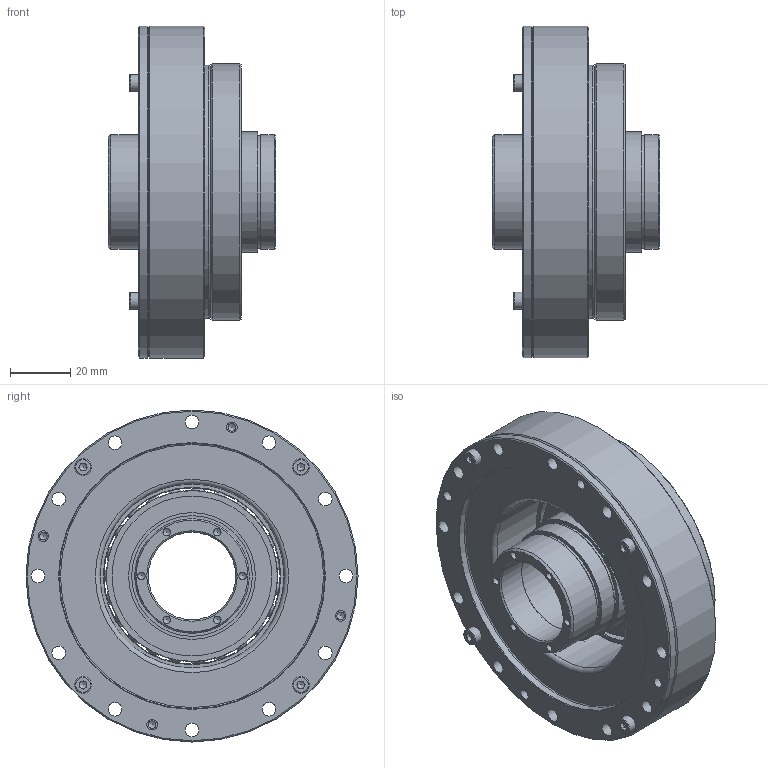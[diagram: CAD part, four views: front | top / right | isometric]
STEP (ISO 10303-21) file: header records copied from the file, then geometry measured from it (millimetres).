
FILE_DESCRIPTION (( 'STEP AP203' ), '1' );
FILE_NAME ('LHSG-25-XXX-C-III-ST-D2.STEP', '2025-07-15T06:01:01', ( '' ), ( '' ), 'SwSTEP 2.0', 'SolidWorks 2023', '' );
FILE_SCHEMA (( 'CONFIG_CONTROL_DESIGN' ));
Length unit declared in the file: millimetre
Products named in the file (1): LHSG-25-XXX-C-III-ST-D2
Bounding box: 55.5 x 110 x 110 mm (x, y, z)
Volume: 175874.4 mm3; surface area: 119253.7 mm2
Topology: 41 solids, 41 shells, 563 faces, 1317 edges, 831 vertices
Faces by surface type: plane 219, cylinder 208, cone 75, torus 38, sphere 23
Full cylindrical faces by diameter (mm): 2.5 x22, 3 x8, 3.3 x16, 3.5 x12, 4.5 x24, 4.7 x16, 5.5 x8, 6 x4, 29 x2, 29.5 x1, 37.5 x2, 38 x2, 39.5 x2, 40 x4, 42 x2, 45.22 x1, 46 x1, 47 x2, 48.39 x2, 50.1 x1, 53 x1, 56.6 x1, 58.356 x2, 61.072 x1, 61.32 x1, 61.772 x1, 63 x1, 64 x1, 67 x2, 70.8 x1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
Entity records: 13929 total; most frequent: DIRECTION 2658, CARTESIAN_POINT 2190, ORIENTED_EDGE 1814, AXIS2_PLACEMENT_3D 1187, EDGE_LOOP 988, EDGE_CURVE 907, FACE_OUTER_BOUND 740, VERTEX_POINT 719
